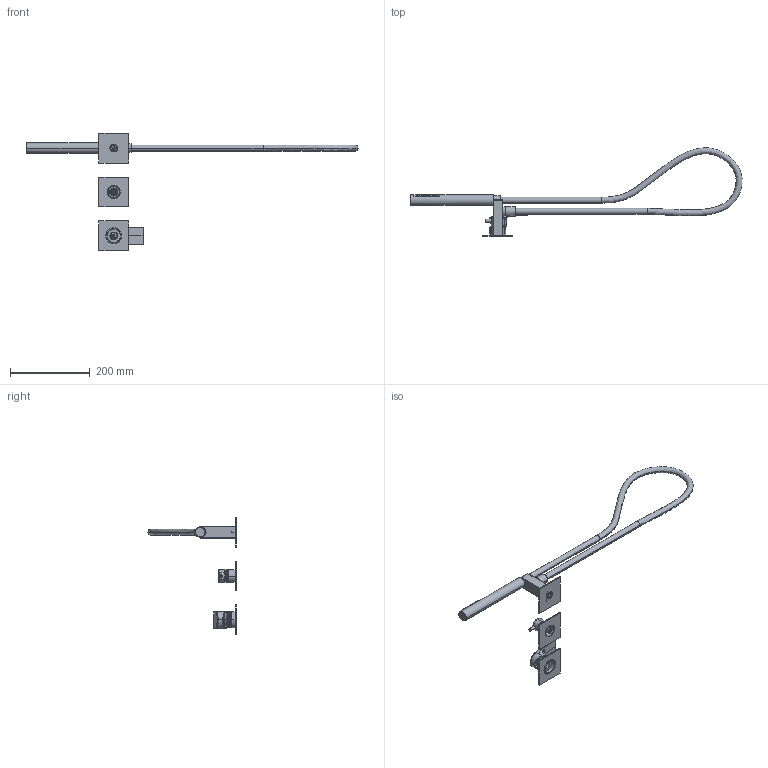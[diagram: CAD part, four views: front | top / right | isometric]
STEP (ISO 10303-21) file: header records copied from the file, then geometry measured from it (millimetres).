
FILE_DESCRIPTION((''),'2;1');
FILE_NAME('3D_SW0002','2024-09-30T11:18:04',('volponeff'),(''),'CREO PARAMETRIC BY PTC INC, 2022014','CREO PARAMETRIC BY PTC INC, 2022014','');
FILE_SCHEMA(('CONFIG_CONTROL_DESIGN'));
Products named in the file (1): 3D_SW0002
Bounding box: 832.03 x 221.16 x 295 mm (x, y, z)
Volume: 448830.6 mm3; surface area: 209079.1 mm2
Topology: 8 solids, 8 shells, 1532 faces, 4010 edges, 2548 vertices
Faces by surface type: cylinder 732, plane 390, cone 156, bspline 144, torus 86, sphere 22, extrusion 2
Entity records: 129865 total; most frequent: CARTESIAN_POINT 94457, ORIENTED_EDGE 7968, DIRECTION 6386, EDGE_CURVE 3984, VERTEX_POINT 2548, AXIS2_PLACEMENT_3D 2367, EDGE_LOOP 1710, VECTOR 1652
